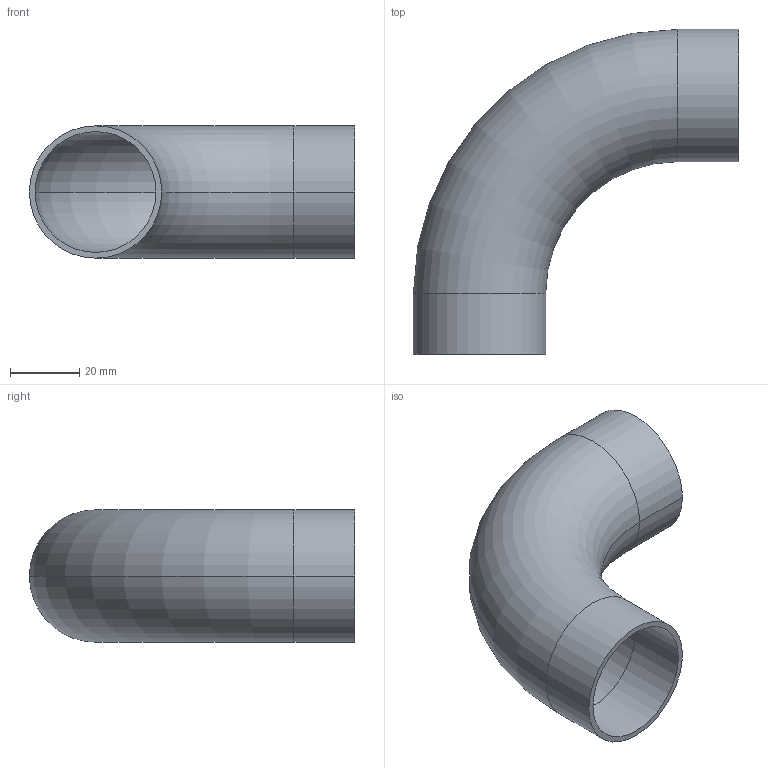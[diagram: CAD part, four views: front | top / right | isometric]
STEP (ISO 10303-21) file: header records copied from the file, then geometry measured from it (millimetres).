
FILE_DESCRIPTION (( 'STEP AP203' ), '1' );
FILE_NAME ('E2S1.5.STEP', '2018-04-30T18:03:03', ( 'vneprd' ), ( 'Microsoft' ), 'SwSTEP 2.0', 'SolidWorks 2014', '' );
FILE_SCHEMA (( 'CONFIG_CONTROL_DESIGN' ));
Length unit declared in the file: inch
Products named in the file (1): E2S1.5
Bounding box: 93.65 x 93.65 x 38.1 mm (x, y, z)
Volume: 23569.3 mm3; surface area: 28929.6 mm2
Topology: 1 solids, 1 shells, 14 faces, 28 edges, 16 vertices
Faces by surface type: cylinder 8, torus 4, plane 2
Entity records: 451 total; most frequent: DIRECTION 78, CARTESIAN_POINT 59, ORIENTED_EDGE 56, AXIS2_PLACEMENT_3D 35, EDGE_CURVE 28, CIRCLE 20, VERTEX_POINT 16, EDGE_LOOP 16
